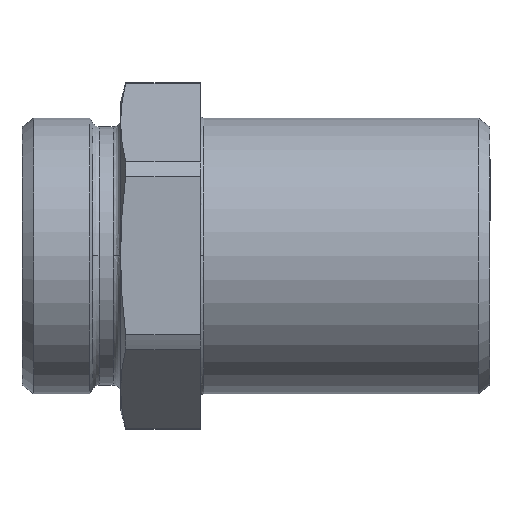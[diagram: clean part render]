
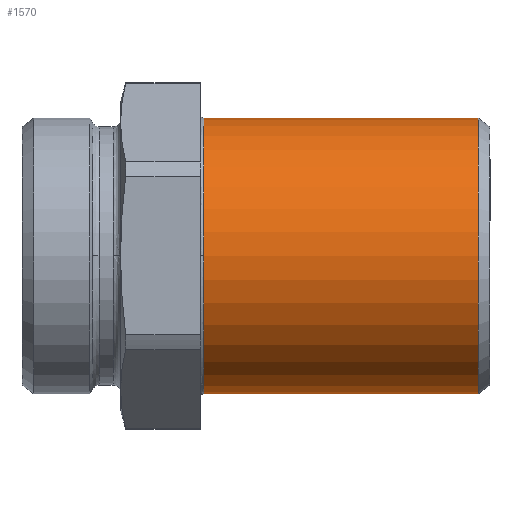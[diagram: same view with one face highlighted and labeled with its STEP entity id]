
A CAD part, top view. The second image highlights one B-rep face of the part: STEP entity #1570.
In plain terms, the highlighted cylindrical face has radius 22.41 mm (diameter 44.82 mm), a partial arc.
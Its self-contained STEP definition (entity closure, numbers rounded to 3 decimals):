
#326=CARTESIAN_POINT('',(0.,-22.41,-7.));
#327=VERTEX_POINT('',#326);
#335=CARTESIAN_POINT('',(22.41,0.,-7.));
#336=VERTEX_POINT('',#335);
#337=CARTESIAN_POINT('',(0.,0.0,-7.0));
#338=DIRECTION('',(0.0,0.0,1.0));
#339=DIRECTION('',(0.0,1.0,0.0));
#340=AXIS2_PLACEMENT_3D('',#337,#338,#339);
#341=CIRCLE('',#340,22.41);
#342=EDGE_CURVE('',#327,#336,#341,.T.);
#368=CARTESIAN_POINT('',(0.,22.41,-51.563));
#369=VERTEX_POINT('',#368);
#370=CARTESIAN_POINT('',(0.,22.41,-7.));
#371=VERTEX_POINT('',#370);
#372=CARTESIAN_POINT('',(0.,22.41,-51.563));
#373=DIRECTION('',(0.0,0.0,1.0));
#374=VECTOR('',#373,44.563);
#375=LINE('',#372,#374);
#376=EDGE_CURVE('',#369,#371,#375,.T.);
#378=CARTESIAN_POINT('',(0.,-22.41,-51.563));
#379=VERTEX_POINT('',#378);
#387=CARTESIAN_POINT('',(0.,-22.41,-7.));
#388=DIRECTION('',(0.0,0.0,-1.0));
#389=VECTOR('',#388,44.563);
#390=LINE('',#387,#389);
#391=EDGE_CURVE('',#327,#379,#390,.T.);
#1540=CARTESIAN_POINT('',(0.,0.,-51.563));
#1541=DIRECTION('',(0.0,0.0,1.0));
#1542=DIRECTION('',(0.0,1.0,0.0));
#1543=AXIS2_PLACEMENT_3D('',#1540,#1541,#1542);
#1544=CIRCLE('',#1543,22.41);
#1545=EDGE_CURVE('',#379,#369,#1544,.T.);
#1552=CARTESIAN_POINT('',(0.,0.,-29.281));
#1553=DIRECTION('',(0.,0.,1.0));
#1554=DIRECTION('',(0.0,1.0,0.0));
#1555=AXIS2_PLACEMENT_3D('',#1552,#1553,#1554);
#1556=CYLINDRICAL_SURFACE('',#1555,22.41);
#1557=ORIENTED_EDGE('',*,*,#376,.T.);
#1558=CARTESIAN_POINT('',(0.,0.0,-7.0));
#1559=DIRECTION('',(0.0,0.0,1.0));
#1560=DIRECTION('',(0.0,1.0,0.0));
#1561=AXIS2_PLACEMENT_3D('',#1558,#1559,#1560);
#1562=CIRCLE('',#1561,22.41);
#1563=EDGE_CURVE('',#336,#371,#1562,.T.);
#1564=ORIENTED_EDGE('',*,*,#1563,.F.);
#1565=ORIENTED_EDGE('',*,*,#342,.F.);
#1566=ORIENTED_EDGE('',*,*,#391,.T.);
#1567=ORIENTED_EDGE('',*,*,#1545,.T.);
#1568=EDGE_LOOP('',(#1557,#1564,#1565,#1566,#1567));
#1569=FACE_OUTER_BOUND('',#1568,.T.);
#1570=ADVANCED_FACE('',(#1569),#1556,.T.);
